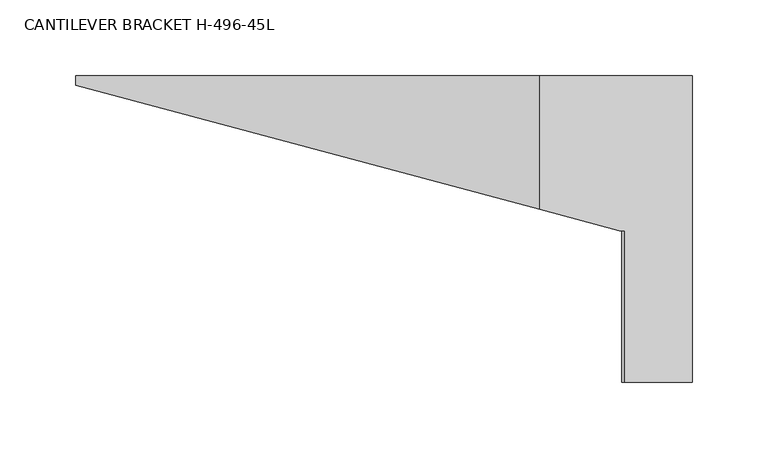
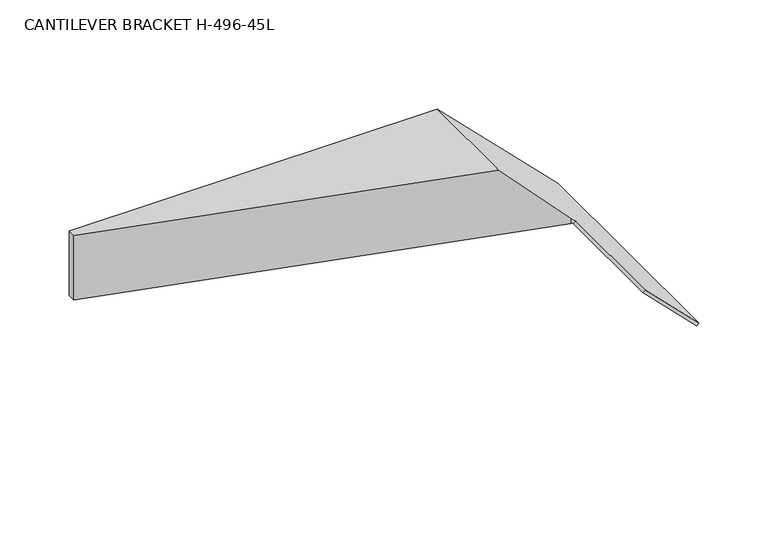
"""IFC4 building model written with IfcOpenShell, lengths in millimetres: proxy geometry, CANTILEVER BRACKET H-496-45L."""

from ifc_helpers import new_model, si_unit, origin, place, context, project, spatial, faceted_brep, source, transform, mapped, element, save


def cantilever_bracket_h_496_45l_113475cd(model_context):
    return source(origin(), model_context, "Body", "Brep", [
        faceted_brep([(406.6716755, 203.2, -45.7737779), (406.6716755, 0.0, -45.7737779), (361.7703949, 0.0, -0.8724973), (361.7703949, 100.4316, -0.8724973), (360.8978976, 100.4316, 0.0), (360.8978976, 203.2, 0.0), (408.4677267, 0.0, -43.9777267), (408.4677267, 203.2, -43.9777267), (307.34, 203.2, 57.15), (307.34, 114.5004854, 57.15), (359.8457951, 100.4316, 4.6442049), (363.5664461, 100.4316, 0.9235539), (363.5664461, 0.0, 0.9235539), (0.0, 203.2, 0.0), (0.0, 203.2, 57.15), (359.8457951, 100.4316, 0.0), (0.0, 196.8519902, 0.0), (0.0, 196.8519902, 57.15)], [[[0, 1, 2, 3, 4, 5]], [[6, 7, 8, 9, 10, 11, 12]], [[5, 13, 14, 8, 7, 0]], [[5, 4, 15, 16, 13]], [[17, 9, 8, 14]], [[11, 10, 15, 4, 3]], [[17, 16, 15, 10, 9]], [[14, 13, 16, 17]], [[2, 12, 11, 3]], [[12, 2, 1, 6]], [[1, 0, 7, 6]]]),
    ])


if __name__ == "__main__":
    model = new_model("IFC4")
    model_context = context("Model", 3, world=origin())
    ifc_project = project(units=[si_unit("LENGTHUNIT", "METRE", prefix="MILLI")], contexts=[model_context])
    site = spatial("IfcSite", under=ifc_project)
    building = spatial("IfcBuilding", under=site)
    placement = place(None, origin())
    cantilever_bracket_h_496_45l_shape = cantilever_bracket_h_496_45l_113475cd(model_context)
    element("IfcBuildingElementProxy", 1, Name="CANTILEVER BRACKET H-496-45L", ObjectType="CANTILEVER BRACKET H-496-45L", at=placement, inside=building, context=model_context, shape_type="MappedRepresentation", body=[
        mapped(cantilever_bracket_h_496_45l_shape, transform((0.0, 0.0, 0.0), x_axis=(1.0, 0.0, 0.0), y_axis=(0.0, 1.0, 0.0), z_axis=(0.0, 0.0, 1.0))),
    ])
    save(model, "model.ifc")
